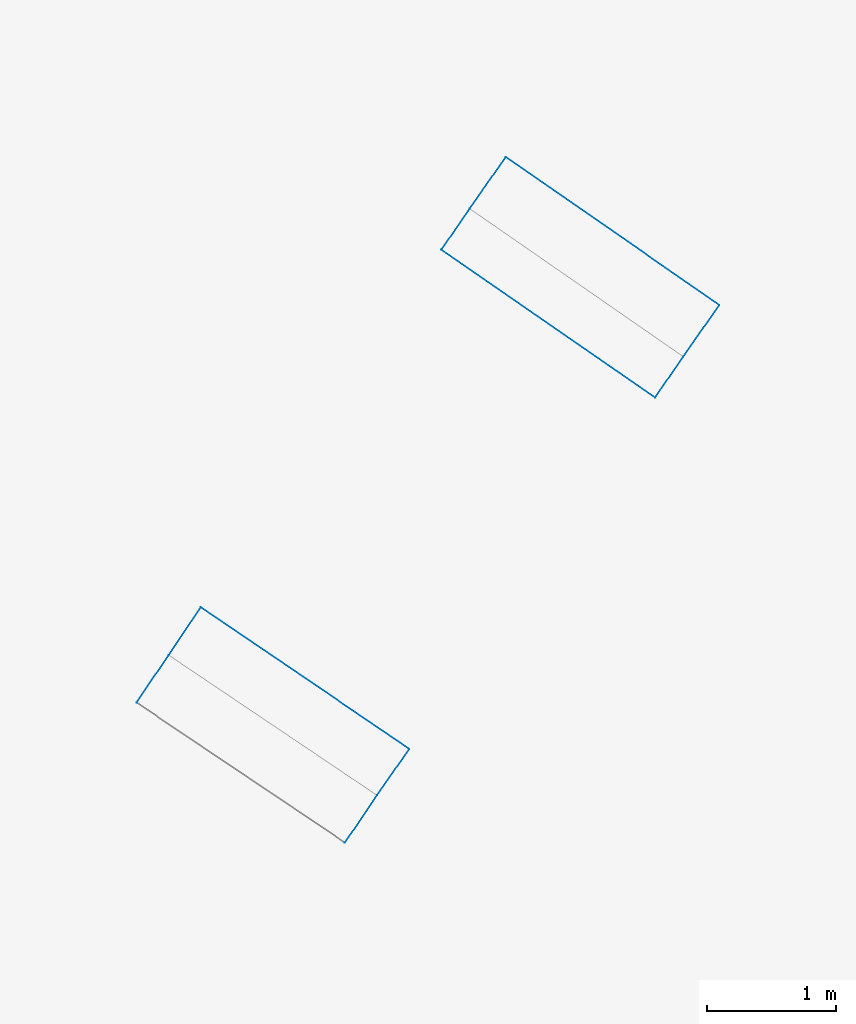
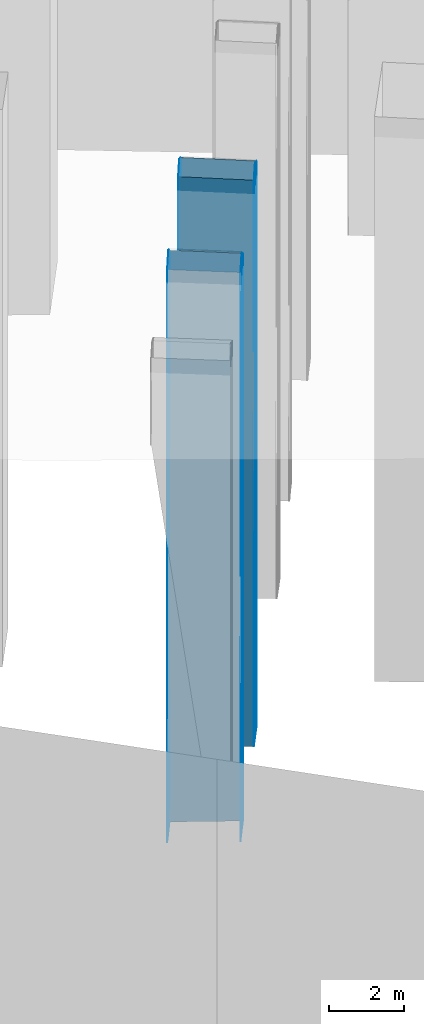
# Not in any storey, part 8 of 136: 11 walls.
"""IFC4 building model written with IfcOpenShell, lengths in metres."""

import ifcopenshell
import ifcopenshell.guid

model = None  # the IFC model being written
_history = None  # IfcOwnerHistory: only IFC2X3 demands one
_inside = {}  # id of a spatial element -> (the spatial element, [elements in it])
_under = {}  # id of a project, library or spatial element -> (it, [spatial elements below it])
_declared = {}  # id of a project -> (the project, [libraries it declares])
_typed = {}  # id of a type object -> (the type object, [elements of that type])
_made_of = {}  # id of a material, layer set ... -> (it, [elements and type objects made of it])


def new_model(schema):
    """Start an empty IFC model of exactly this schema.

    Asked for "IFC4X3", IfcOpenShell would pick the latest addendum, in which some entities
    have other attributes; the version numbers below select the first issue.
    IFC2X3 requires an IfcOwnerHistory on every rooted entity: one is made here for all.
    """
    global model, _history
    if schema == "IFC4X3":
        model = ifcopenshell.file(schema_version=(4, 3, 0, 0))
    else:
        model = ifcopenshell.file(schema=schema)
    _inside.clear()
    _under.clear()
    _declared.clear()
    _typed.clear()
    _made_of.clear()
    _history = None
    if model.schema == "IFC2X3":
        org = make("IfcOrganization", Name="unknown")
        user = make(
            "IfcPersonAndOrganization",
            ThePerson=make("IfcPerson", FamilyName="unknown"),
            TheOrganization=org,
        )
        app = make(
            "IfcApplication",
            ApplicationDeveloper=org,
            Version="unknown",
            ApplicationFullName="unknown",
            ApplicationIdentifier="unknown",
        )
        _history = make(
            "IfcOwnerHistory",
            OwningUser=user,
            OwningApplication=app,
            ChangeAction="ADDED",
            CreationDate=0,
        )
    return model


def make(cls, **values):
    """One entity of the class cls with the attributes given. An attribute that is None is left unset."""
    return model.create_entity(
        cls, **{name: value for name, value in values.items() if value is not None}
    )


def entity(cls, *values):
    """Any entity or typed value of the class cls, its attributes in the order of the schema. None: left unset."""
    e = model.create_entity(cls)
    for i, value in enumerate(values):
        if value is not None:
            e[i] = value
    return e


def rooted(cls, **values):
    """An entity with a GlobalId (a new one), such as an element, a storey or a relation."""
    return make(cls, GlobalId=ifcopenshell.guid.new(), OwnerHistory=_history, **values)


def si_unit(unit_type, name, prefix=None):
    """IfcSIUnit, for example si_unit("LENGTHUNIT", "METRE", prefix="MILLI")."""
    return make("IfcSIUnit", UnitType=unit_type, Prefix=prefix, Name=name)


def converted_unit(unit_type, name, factor, base, dimensions=None, offset=None):
    """IfcConversionBasedUnit, such as the inch: factor (a typed value) times the base unit."""
    return make(
        "IfcConversionBasedUnit"
        if offset is None
        else "IfcConversionBasedUnitWithOffset",
        ConversionOffset=offset,
        Dimensions=None
        if dimensions is None
        else entity("IfcDimensionalExponents", *dimensions),
        UnitType=unit_type,
        Name=name,
        ConversionFactor=make(
            "IfcMeasureWithUnit", ValueComponent=factor, UnitComponent=base
        ),
    )


def assignment(units):
    """IfcUnitAssignment: the units of a project."""
    return None if units is None else make("IfcUnitAssignment", Units=units)


def point(xyz):
    """IfcCartesianPoint."""
    return None if xyz is None else make("IfcCartesianPoint", Coordinates=xyz)


def direction(xyz):
    """IfcDirection."""
    return None if xyz is None else make("IfcDirection", DirectionRatios=xyz)


def frame(location, z_axis=None, x_axis=None):
    """IfcAxis2Placement3D, a coordinate frame: its origin and axes. An axis left out is left unset."""
    return make(
        "IfcAxis2Placement3D",
        Location=point(location),
        Axis=direction(z_axis),
        RefDirection=direction(x_axis),
    )


def origin():
    """The frame at (0, 0, 0) with its axes left unset."""
    return frame((0.0, 0.0, 0.0))


def place(relative_to, where):
    """IfcLocalPlacement: puts the frame where relative to a parent placement (None: the world)."""
    return make(
        "IfcLocalPlacement", PlacementRelTo=relative_to, RelativePlacement=where
    )


def context(
    kind, dimensions, precision=None, world=None, true_north=None, identifier=None
):
    """IfcGeometricRepresentationContext, for example the 3D "Model" context."""
    return make(
        "IfcGeometricRepresentationContext",
        ContextIdentifier=identifier,
        ContextType=kind,
        CoordinateSpaceDimension=dimensions,
        Precision=precision,
        WorldCoordinateSystem=world,
        TrueNorth=true_north,
    )


def subcontext(parent, identifier, kind, view, scale=None):
    """IfcGeometricRepresentationSubContext, for example "Body" below "Model"."""
    return make(
        "IfcGeometricRepresentationSubContext",
        ContextIdentifier=identifier,
        ContextType=kind,
        ParentContext=parent,
        TargetScale=scale,
        TargetView=view,
    )


def project(units=None, contexts=None):
    """IfcProject with its units and contexts."""
    return rooted(
        "IfcProject",
        Name="project",
        RepresentationContexts=contexts,
        UnitsInContext=assignment(units),
    )


def spatial(cls, under=None, at=None, **own):
    """A site, building, storey or space (cls), placed at a placement, below another one or the project."""
    s = rooted(cls, ObjectPlacement=at, **own)
    if under is not None:
        _under.setdefault(under.id(), (under, []))[1].append(s)
    return s


def faces_of(points, faces, orient=None, outer=None):
    """IfcFace entities. A face is a list of loops; a loop is a list of indices into points, from 0.

    orient and outer hold one flag for each loop. By default every Orientation is true, the
    first loop of a face is its IfcFaceOuterBound and the others are IfcFaceBound.
    """
    made = []
    for i, loops in enumerate(faces):
        bounds = []
        for j, loop in enumerate(loops):
            is_outer = j == 0 if outer is None else outer[i][j]
            bounds.append(
                make(
                    "IfcFaceOuterBound" if is_outer else "IfcFaceBound",
                    Bound=make("IfcPolyLoop", Polygon=[points[k] for k in loop]),
                    Orientation=True if orient is None else orient[i][j],
                )
            )
        made.append(make("IfcFace", Bounds=bounds))
    return made


def face_set(faces, orient=None, outer=None):
    """The faces of one IfcConnectedFaceSet. surface_model builds it on its shared points."""
    return ("IfcConnectedFaceSet", faces, orient, outer)


def surface_model(cls, points, shells):
    """IfcFaceBasedSurfaceModel or IfcShellBasedSurfaceModel (cls): surfaces that need not close."""
    shared = [point(p) for p in points]
    made = [make(c, CfsFaces=faces_of(shared, fs, o, b)) for c, fs, o, b in shells]
    if cls == "IfcFaceBasedSurfaceModel":
        return make(cls, FbsmFaces=made)
    return make(cls, SbsmBoundary=made)


def shape(context_of_items, identifier, shape_type, items):
    """IfcShapeRepresentation: the items that make up one representation, for example the "Body"."""
    return make(
        "IfcShapeRepresentation",
        ContextOfItems=context_of_items,
        RepresentationIdentifier=identifier,
        RepresentationType=shape_type,
        Items=items,
    )


def made_of(thing, what):
    """Note that an element or type object is made of a material, layer set ...; save() writes the relation."""
    if what is not None:
        _made_of.setdefault(what.id(), (what, []))[1].append(thing)
    return thing


def element(
    cls,
    number,
    at=None,
    inside=None,
    cuts=None,
    type_object=None,
    material=None,
    context=None,
    identifier="Body",
    shape_type=None,
    held_by="IfcProductDefinitionShape",
    body=None,
    shapes=None,
    **own,
):
    """One element of the class cls, such as IfcWall. Its Tag is "e" and its number.

    at: its placement. inside: the storey or other place that contains it. cuts: it is an
    opening in that element (IfcRelVoidsElement). A single representation is given by context,
    identifier, shape_type and body (its items); several are given by shapes. held_by: the class
    of the entity that holds the representations. save() writes the other relations.
    """
    e = rooted(cls, Tag="e%d" % number, ObjectPlacement=at, **own)
    if body is not None:
        shapes = [shape(context, identifier, shape_type, body)]
    if shapes is not None:
        e.Representation = make(held_by, Representations=shapes)
    if inside is not None:
        _inside.setdefault(inside.id(), (inside, []))[1].append(e)
    if cuts is not None:
        rooted(
            "IfcRelVoidsElement", RelatingBuildingElement=cuts, RelatedOpeningElement=e
        )
    if type_object is not None:
        _typed.setdefault(type_object.id(), (type_object, []))[1].append(e)
    return made_of(e, material)


def aggregate(whole, parts):
    """IfcRelAggregates: a whole, such as a stair, and the parts it consists of."""
    return rooted("IfcRelAggregates", RelatingObject=whole, RelatedObjects=parts)


def save(model, path):
    """Write the relations noted so far, then the file.

    IfcRelAggregates (storeys below a building ...), IfcRelContainedInSpatialStructure (elements
    in a storey), IfcRelDefinesByType, IfcRelAssociatesMaterial and IfcRelDeclares: one each for
    every whole, place, type object, material and project.
    """
    for whole, parts in _under.values():
        aggregate(whole, parts)
    for where, things in _inside.values():
        rooted(
            "IfcRelContainedInSpatialStructure",
            RelatedElements=things,
            RelatingStructure=where,
        )
    for kind, things in _typed.values():
        rooted("IfcRelDefinesByType", RelatedObjects=things, RelatingType=kind)
    for what, things in _made_of.values():
        rooted("IfcRelAssociatesMaterial", RelatedObjects=things, RelatingMaterial=what)
    for by, libraries in _declared.values():
        rooted("IfcRelDeclares", RelatingContext=by, RelatedDefinitions=libraries)
    model.write(path)


model = new_model("IFC4")

# Units and contexts
model_context = context("Model", 3, precision=1e-05, world=origin())
body_context = subcontext(model_context, "Body", "Model", "MODEL_VIEW")
ifc_project = project(units=[converted_unit("PLANEANGLEUNIT", "DEGREE", entity("IfcRatioMeasure", 0.0174532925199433), si_unit("PLANEANGLEUNIT", "RADIAN"), dimensions=[0, 0, 0, 0, 0, 0, 0]), si_unit("AREAUNIT", "SQUARE_METRE"), si_unit("LENGTHUNIT", "METRE")], contexts=[model_context])

# Site, building
site_placement = place(None, origin())
site = spatial("IfcSite", under=ifc_project, at=site_placement, Name="_site")
building_placement = place(site_placement, origin())
building = spatial("IfcBuilding", under=site, at=building_placement, Name="_building")

# Walls
wall_1_placement = place(building_placement, origin())
element("IfcWall", 1, at=wall_1_placement, inside=building, Name="Wall", PredefinedType="NOTDEFINED", context=body_context, shape_type="SurfaceModel", body=[
    surface_model("IfcFaceBasedSurfaceModel", [(11.17, 30.63, 54.39), (11.39, 30.95, 54.72), (11.39, 30.95, 35.938), (11.17, 30.63, 35.921)], [face_set([[[0, 1, 2, 3]]])]),
])
wall_2_placement = place(building_placement, origin())
element("IfcWall", 2, at=wall_2_placement, inside=building, Name="Wall", PredefinedType="NOTDEFINED", context=body_context, shape_type="SurfaceModel", body=[
    surface_model("IfcFaceBasedSurfaceModel", [(13.05, 29.8, 54.72), (12.83, 29.48, 54.39), (12.83, 29.48, 36.013), (13.05, 29.8, 36.03)], [face_set([[[0, 1, 2, 3]]])]),
])
wall_3_placement = place(building_placement, origin())
element("IfcWall", 3, at=wall_3_placement, inside=building, Name="Wall", PredefinedType="NOTDEFINED", context=body_context, shape_type="SurfaceModel", body=[
    surface_model("IfcFaceBasedSurfaceModel", [(10.92, 26.75, 54.34), (10.67, 26.39, 54.68), (10.67, 26.39, 35.894), (10.92, 26.75, 35.92)], [face_set([[[0, 1, 2, 3]]])]),
])
wall_4_placement = place(building_placement, origin())
element("IfcWall", 4, at=wall_4_placement, inside=building, Name="Wall", PredefinedType="NOTDEFINED", context=body_context, shape_type="SurfaceModel", body=[
    surface_model("IfcFaceBasedSurfaceModel", [(9.05, 27.48, 54.68), (9.3, 27.851, 54.34), (9.3, 27.851, 35.788), (9.05, 27.48, 35.762)], [face_set([[[0, 1, 2, 3]]])]),
])
wall_5_placement = place(building_placement, origin())
element("IfcWall", 5, at=wall_5_placement, inside=building, Name="Wall", PredefinedType="NOTDEFINED", context=body_context, shape_type="SurfaceModel", body=[
    surface_model("IfcFaceBasedSurfaceModel", [(13.33, 30.2, 54.41), (13.05, 29.8, 54.72), (13.05, 29.8, 36.03), (13.33, 30.2, 36.052)], [face_set([[[0, 1, 2, 3]]])]),
])
wall_6_placement = place(building_placement, origin())
element("IfcWall", 6, at=wall_6_placement, inside=building, Name="Wall", PredefinedType="NOTDEFINED", context=body_context, shape_type="SurfaceModel", body=[
    surface_model("IfcFaceBasedSurfaceModel", [(11.67, 31.351, 54.41), (13.33, 30.2, 54.41), (13.33, 30.2, 36.052), (11.67, 31.351, 35.96)], [face_set([[[0, 1, 2, 3]]])]),
])
wall_7_placement = place(building_placement, origin())
element("IfcWall", 7, at=wall_7_placement, inside=building, Name="Wall", PredefinedType="NOTDEFINED", context=body_context, shape_type="SurfaceModel", body=[
    surface_model("IfcFaceBasedSurfaceModel", [(11.39, 30.95, 54.72), (11.67, 31.351, 54.41), (11.67, 31.351, 35.96), (11.39, 30.95, 35.938)], [face_set([[[0, 1, 2, 3]]])]),
])
wall_8_placement = place(building_placement, origin())
element("IfcWall", 8, at=wall_8_placement, inside=building, Name="Wall", PredefinedType="NOTDEFINED", context=body_context, shape_type="SurfaceModel", body=[
    surface_model("IfcFaceBasedSurfaceModel", [(9.3, 27.851, 54.34), (10.92, 26.75, 54.34), (10.92, 26.75, 35.92), (9.3, 27.851, 35.788)], [face_set([[[0, 1, 2, 3]]])]),
])
wall_9_placement = place(building_placement, origin())
element("IfcWall", 9, at=wall_9_placement, inside=building, Name="Wall", PredefinedType="NOTDEFINED", context=body_context, shape_type="SurfaceModel", body=[
    surface_model("IfcFaceBasedSurfaceModel", [(12.83, 29.48, 54.39), (11.17, 30.63, 54.39), (11.17, 30.63, 35.921), (12.83, 29.48, 36.013)], [face_set([[[0, 1, 2, 3]]])]),
])
wall_10_placement = place(building_placement, origin())
element("IfcWall", 10, at=wall_10_placement, inside=building, Name="Wall", PredefinedType="NOTDEFINED", context=body_context, shape_type="SurfaceModel", body=[
    surface_model("IfcFaceBasedSurfaceModel", [(8.8, 27.11, 54.34), (9.05, 27.48, 54.68), (9.05, 27.48, 35.762), (8.8, 27.11, 35.735)], [face_set([[[0, 1, 2, 3]]])]),
])
wall_11_placement = place(building_placement, origin())
element("IfcWall", 11, at=wall_11_placement, inside=building, Name="Wall", PredefinedType="NOTDEFINED", context=body_context, shape_type="SurfaceModel", body=[
    surface_model("IfcFaceBasedSurfaceModel", [(10.67, 26.39, 54.68), (10.42, 26.021, 54.34), (10.42, 26.021, 35.867), (10.67, 26.39, 35.894)], [face_set([[[0, 1, 2, 3]]])]),
])

save(model, "model.ifc")
